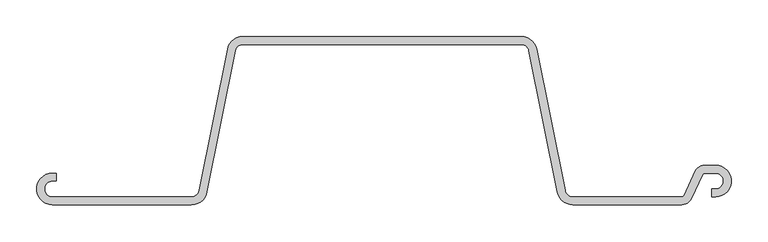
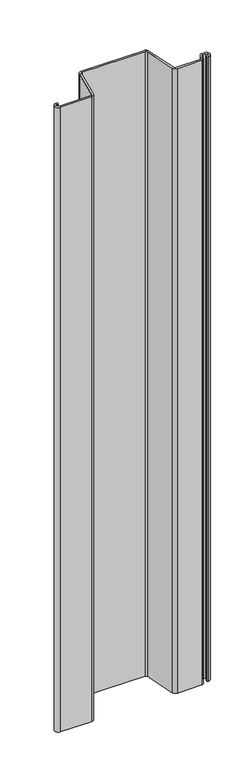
"""IFC4 building model written with IfcOpenShell, lengths in millimetres: proxy geometry, 鋼矢板10H型 : 鋼矢板10H型."""

from ifc_helpers import new_model, si_unit, point, frame, frame_2d, origin, place, context, project, spatial, polyline, circle_curve, trimmed, segment, composite_curve, outline, extrude, source, transform, mapped, element, save


def generic_models_580ca2bd(model_context):
    return source(origin(), model_context, "Body", "SweptSolid", [
        extrude(outline(composite_curve([segment(trimmed(circle_curve(frame_2d((409.1972607, -101.1142857)), 13.8857143), [point((421.7819917, -106.9826421))], [point((409.1972607, -115.0))], False, "CARTESIAN"), True, "CONTINUOUS"), segment(polyline([(409.1972607, -115.0), (260.2008232, -115.0)]), True, "CONTINUOUS"), segment(trimmed(circle_curve(frame_2d((260.2008232, -93.4)), 21.6), [point((260.2008232, -115.0))], [point((239.0202806, -97.6361085))], False, "CARTESIAN"), True, "CONTINUOUS"), segment(polyline([(239.0202806, -97.6361085), (200.3894481, 95.5180543)]), True, "CONTINUOUS"), segment(trimmed(circle_curve(frame_2d((189.7991768, 93.4)), 10.8), [point((200.3894481, 95.5180543))], [point((189.7991768, 104.2))], True, "CARTESIAN"), True, "CONTINUOUS"), segment(polyline([(189.7991768, 104.2), (-189.7991768, 104.2)]), True, "CONTINUOUS"), segment(trimmed(circle_curve(frame_2d((-189.7991768, 93.4)), 10.8), [point((-189.7991768, 104.2))], [point((-200.3894481, 95.5180543))], True, "CARTESIAN"), True, "CONTINUOUS"), segment(polyline([(-200.3894481, 95.5180543), (-239.0202806, -97.6361085)]), True, "CONTINUOUS"), segment(trimmed(circle_curve(frame_2d((-260.2008232, -93.4)), 21.6), [point((-239.0202806, -97.6361085))], [point((-260.2008232, -115.0))], False, "CARTESIAN"), True, "CONTINUOUS"), segment(polyline([(-260.2008232, -115.0), (-450.0, -115.0)]), True, "CONTINUOUS"), segment(trimmed(circle_curve(frame_2d((-450.0, -93.4)), 21.6), [point((-450.0, -115.0))], [point((-450.0, -71.8))], False, "CARTESIAN"), True, "CONTINUOUS"), segment(polyline([(-450.0, -71.8), (-445.0, -71.8), (-445.0, -82.6), (-450.0, -82.6)]), True, "CONTINUOUS"), segment(trimmed(circle_curve(frame_2d((-450.0, -93.4)), 10.8), [point((-450.0, -82.6))], [point((-450.0, -104.2))], True, "CARTESIAN"), True, "CONTINUOUS"), segment(polyline([(-450.0, -104.2), (-260.2008232, -104.2)]), True, "CONTINUOUS"), segment(trimmed(circle_curve(frame_2d((-260.2008232, -93.4)), 10.8), [point((-260.2008232, -104.2))], [point((-249.6105519, -95.5180543))], True, "CARTESIAN"), True, "CONTINUOUS"), segment(polyline([(-249.6105519, -95.5180543), (-210.9797194, 97.6361085)]), True, "CONTINUOUS"), segment(trimmed(circle_curve(frame_2d((-189.7991768, 93.4)), 21.6), [point((-210.9797194, 97.6361085))], [point((-189.7991768, 115.0))], False, "CARTESIAN"), True, "CONTINUOUS"), segment(polyline([(-189.7991768, 115.0), (189.7991768, 115.0)]), True, "CONTINUOUS"), segment(trimmed(circle_curve(frame_2d((189.7991768, 93.4)), 21.6), [point((189.7991768, 115.0))], [point((210.9797194, 97.6361085))], False, "CARTESIAN"), True, "CONTINUOUS"), segment(polyline([(210.9797194, 97.6361085), (249.6105519, -95.5180543)]), True, "CONTINUOUS"), segment(trimmed(circle_curve(frame_2d((260.2008232, -93.4)), 10.8), [point((249.6105519, -95.5180543))], [point((260.2008232, -104.2))], True, "CARTESIAN"), True, "CONTINUOUS"), segment(polyline([(260.2008232, -104.2), (409.1972607, -104.2)]), True, "CONTINUOUS"), segment(trimmed(circle_curve(frame_2d((409.1972607, -101.1142857)), 3.0857143), [point((409.1972607, -104.2))], [point((411.9938676, -102.4183649))], True, "CARTESIAN"), True, "CONTINUOUS"), segment(polyline([(411.9938676, -102.4183649), (427.569013, -69.0173579)]), True, "CONTINUOUS"), segment(trimmed(circle_curve(frame_2d((440.153744, -74.8857143)), 13.8857143), [point((427.569013, -69.0173579))], [point((440.153744, -61.0))], False, "CARTESIAN"), True, "CONTINUOUS"), segment(polyline([(440.153744, -61.0), (455.0, -61.0)]), True, "CONTINUOUS"), segment(trimmed(circle_curve(frame_2d((455.0, -82.6)), 21.6), [point((455.0, -61.0))], [point((455.0, -104.2))], False, "CARTESIAN"), True, "CONTINUOUS"), segment(polyline([(455.0, -104.2), (450.0, -104.2), (450.0, -93.4), (455.0, -93.4)]), True, "CONTINUOUS"), segment(trimmed(circle_curve(frame_2d((455.0, -82.6)), 10.8), [point((455.0, -93.4))], [point((455.0, -71.8))], True, "CARTESIAN"), True, "CONTINUOUS"), segment(polyline([(455.0, -71.8), (440.153744, -71.8)]), True, "CONTINUOUS"), segment(trimmed(circle_curve(frame_2d((440.153744, -74.8857143)), 3.0857143), [point((440.153744, -71.8))], [point((437.3571371, -73.5816351))], True, "CARTESIAN"), True, "CONTINUOUS"), segment(polyline([(437.3571371, -73.5816351), (421.7819917, -106.9826421)]), True, "CONTINUOUS")], self_intersect=False)), frame((0.0, 0.0, -4000.0), z_axis=(0.0, 0.0, 1.0), x_axis=(1.0, 0.0, 0.0)), (0.0, 0.0, 1.0), 4000.0),
    ])


if __name__ == "__main__":
    model = new_model("IFC4")
    model_context = context("Model", 3, world=origin())
    ifc_project = project(units=[si_unit("LENGTHUNIT", "METRE", prefix="MILLI")], contexts=[model_context])
    site = spatial("IfcSite", under=ifc_project)
    building = spatial("IfcBuilding", under=site)
    placement = place(None, origin())
    generic_models_shape = generic_models_580ca2bd(model_context)
    element("IfcBuildingElementProxy", 1, Name="鋼矢板10H型 : 鋼矢板10H型", ObjectType="鋼矢板10H型 : 鋼矢板10H型", at=placement, inside=building, context=model_context, shape_type="MappedRepresentation", body=[
        mapped(generic_models_shape, transform((0.0, 0.0, 0.0), x_axis=(1.0, 0.0, 0.0), y_axis=(0.0, 1.0, 0.0), z_axis=(0.0, 0.0, 1.0))),
    ])
    save(model, "model.ifc")
